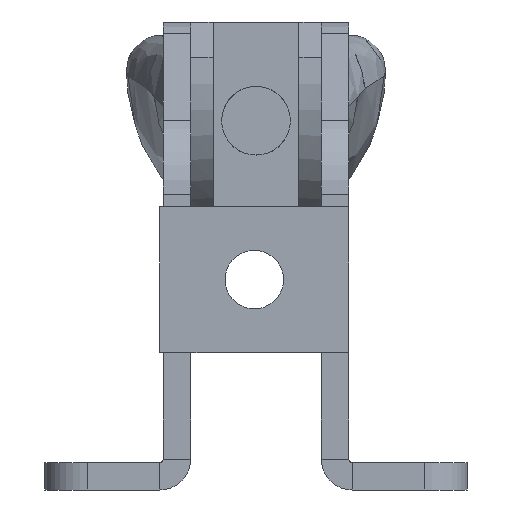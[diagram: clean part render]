
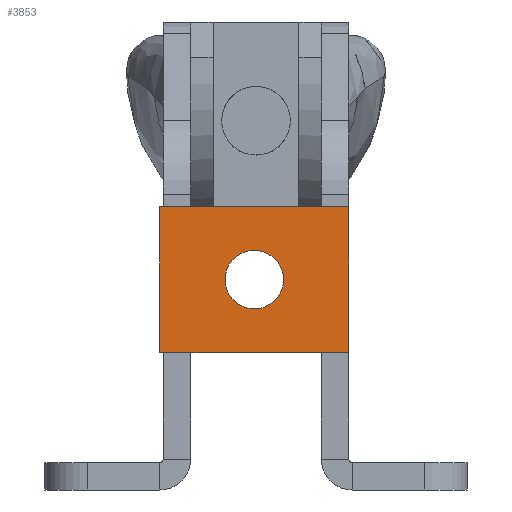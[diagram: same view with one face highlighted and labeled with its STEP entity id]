
A CAD part, left-side view. The second image highlights one B-rep face of the part: STEP entity #3853.
In plain terms, the highlighted planar face has unit normal (-1, 0, 0) as drawn and (1, 0, 0) by its records, which use the part's own axes.
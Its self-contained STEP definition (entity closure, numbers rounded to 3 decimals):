
#247=FACE_BOUND('',#575,.T.);
#339=FACE_OUTER_BOUND('',#574,.T.);
#574=EDGE_LOOP('',(#2940,#2941,#2942,#2943));
#575=EDGE_LOOP('',(#2944,#2945));
#853=LINE('',#6097,#1194);
#861=LINE('',#6113,#1202);
#870=LINE('',#6143,#1211);
#871=LINE('',#6144,#1212);
#1194=VECTOR('',#4932,17.);
#1202=VECTOR('',#4944,22.);
#1211=VECTOR('',#4973,17.);
#1212=VECTOR('',#4974,22.);
#1460=CIRCLE('',#4284,3.4);
#1461=CIRCLE('',#4285,3.4);
#1698=VERTEX_POINT('',#6094);
#1699=VERTEX_POINT('',#6096);
#1705=VERTEX_POINT('',#6111);
#1714=VERTEX_POINT('',#6136);
#1715=VERTEX_POINT('',#6137);
#1716=VERTEX_POINT('',#6142);
#2141=EDGE_CURVE('',#1698,#1699,#853,.T.);
#2149=EDGE_CURVE('',#1698,#1705,#861,.T.);
#2161=EDGE_CURVE('',#1714,#1715,#1460,.T.);
#2162=EDGE_CURVE('',#1715,#1714,#1461,.T.);
#2164=EDGE_CURVE('',#1705,#1716,#870,.T.);
#2165=EDGE_CURVE('',#1699,#1716,#871,.T.);
#2940=ORIENTED_EDGE('',*,*,#2141,.F.);
#2941=ORIENTED_EDGE('',*,*,#2149,.T.);
#2942=ORIENTED_EDGE('',*,*,#2164,.T.);
#2943=ORIENTED_EDGE('',*,*,#2165,.F.);
#2944=ORIENTED_EDGE('',*,*,#2161,.T.);
#2945=ORIENTED_EDGE('',*,*,#2162,.T.);
#3707=PLANE('',#4286);
#3853=ADVANCED_FACE('',(#339,#247),#3707,.T.);
#4284=AXIS2_PLACEMENT_3D('',#6138,#4966,#4967);
#4285=AXIS2_PLACEMENT_3D('',#6139,#4968,#4969);
#4286=AXIS2_PLACEMENT_3D('',#6141,#4971,#4972);
#4932=DIRECTION('',(0.,1.,0.));
#4944=DIRECTION('',(0.,0.,-1.));
#4966=DIRECTION('center_axis',(-1.,0.,0.));
#4967=DIRECTION('ref_axis',(0.,1.,0.));
#4968=DIRECTION('center_axis',(-1.,0.,0.));
#4969=DIRECTION('ref_axis',(0.,1.,0.));
#4971=DIRECTION('center_axis',(1.,0.,0.));
#4972=DIRECTION('ref_axis',(0.,0.,-1.));
#4973=DIRECTION('',(0.,1.,0.));
#4974=DIRECTION('',(0.,0.,-1.));
#6094=CARTESIAN_POINT('',(40.,-17.,0.));
#6096=CARTESIAN_POINT('',(40.,0.,0.));
#6097=CARTESIAN_POINT('',(40.,-17.,0.));
#6111=CARTESIAN_POINT('',(40.,-17.,-22.));
#6113=CARTESIAN_POINT('',(40.,-17.,0.));
#6136=CARTESIAN_POINT('',(40.,-5.1,-11.));
#6137=CARTESIAN_POINT('',(40.,-11.9,-11.));
#6138=CARTESIAN_POINT('Origin',(40.,-8.5,-11.));
#6139=CARTESIAN_POINT('Origin',(40.,-8.5,-11.));
#6141=CARTESIAN_POINT('Origin',(40.,-17.,0.));
#6142=CARTESIAN_POINT('',(40.,0.,-22.));
#6143=CARTESIAN_POINT('',(40.,-17.,-22.));
#6144=CARTESIAN_POINT('',(40.,0.,0.));
